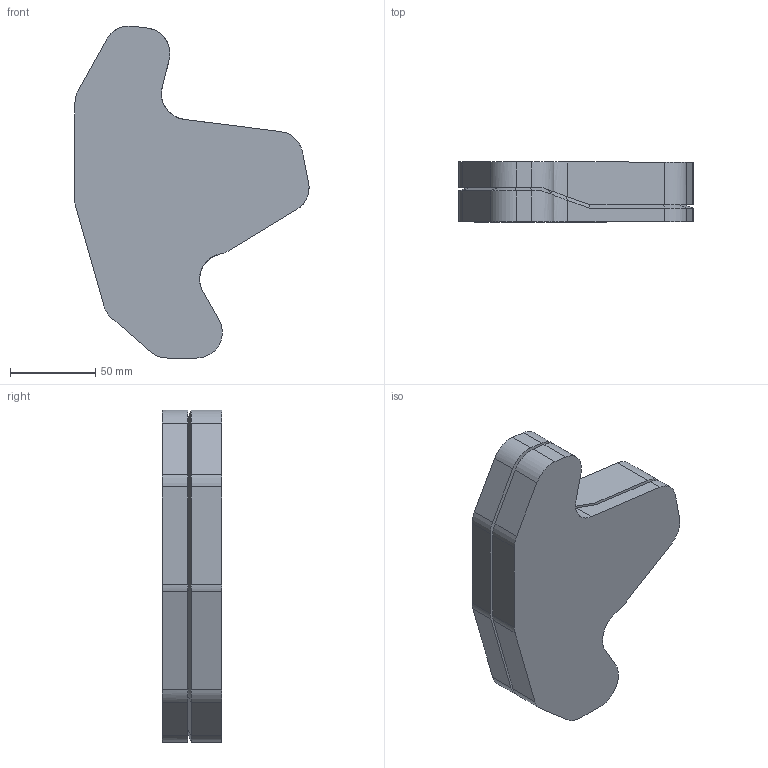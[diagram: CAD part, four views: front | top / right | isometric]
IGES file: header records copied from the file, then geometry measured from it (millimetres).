
Global section: file name: paddle_shift_mould; native system: unknown; preprocessor: unknown; author: unknown; organization: unknown; date: 20211210.090455; units: millimetre
Bounding box: 137.12 x 35 x 194.4 mm (x, y, z)
Volume: 534382.3 mm3; surface area: 106607.2 mm2
Topology: 3 solids, 3 shells, 454 faces, 1201 edges, 749 vertices
Faces by surface type: bspline 454
